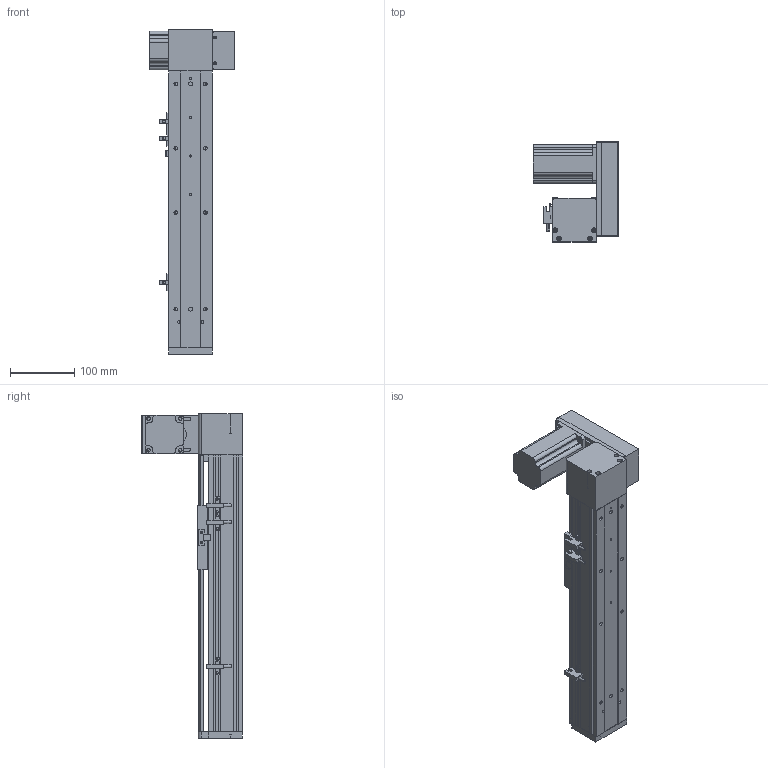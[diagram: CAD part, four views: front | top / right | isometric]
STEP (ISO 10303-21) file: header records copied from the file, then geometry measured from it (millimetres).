
FILE_DESCRIPTION (( 'STEP AP203' ), '1' );
FILE_NAME ('ML68-S250-UL.STEP', '2016-08-04T12:28:05', ( '' ), ( '' ), 'SwSTEP 2.0', 'SolidWorks 2014', '' );
FILE_SCHEMA (( 'CONFIG_CONTROL_DESIGN' ));
Length unit declared in the file: millimetre
Products named in the file (12): ML68-BR傷啣; ML68-S250-UL; ML68傷啣; ML68奻裔^ML68-S250-UL; ML68菁釱^ML68-S250-UL; 三协电机MH201N2_預設; 換覜ん; ML68滅鳥啣盓傅輸媼; QS68左右折电机板罩子; 60換覜結え; QS68酘衵殏萇儂啣; ML68雄赽釱
Assembly tree (13 placements, depth 2):
  ML68-S250-UL
    ML68菁釱^ML68-S250-UL
    ML68奻裔^ML68-S250-UL
    60換覜結え
    ML68-BR傷啣
    換覜ん  x3
    ML68傷啣
    三协电机MH201N2_預設
    ML68雄赽釱
    QS68酘衵殏萇儂啣
    QS68左右折电机板罩子
    ML68滅鳥啣盓傅輸媼
Bounding box: 133.5 x 157 x 504 mm (x, y, z)
Volume: 1262806.1 mm3; surface area: 426685.2 mm2
Topology: 13 solids, 13 shells, 849 faces, 2322 edges, 1475 vertices
Faces by surface type: cylinder 382, plane 375, cone 92
Entity records: 26662 total; most frequent: CARTESIAN_POINT 4902, DIRECTION 4392, ORIENTED_EDGE 4152, EDGE_CURVE 2076, AXIS2_PLACEMENT_3D 1577, VERTEX_POINT 1363, LINE 1238, VECTOR 1238
